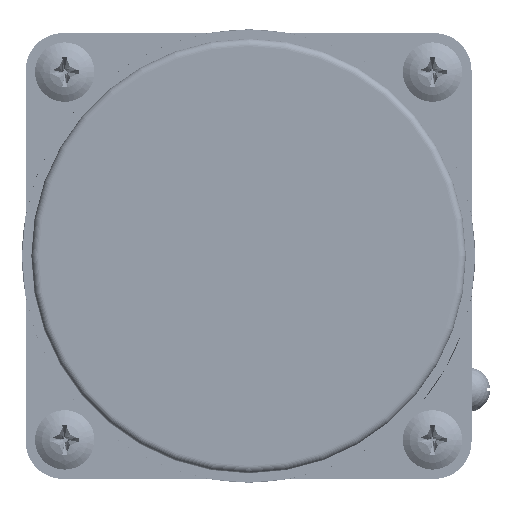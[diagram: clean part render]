
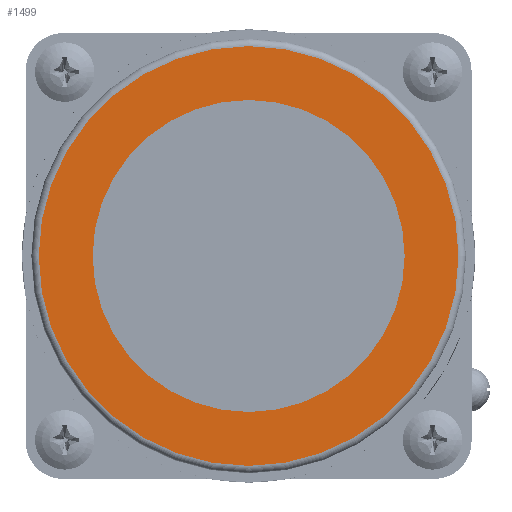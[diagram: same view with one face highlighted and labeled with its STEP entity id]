
A CAD part, left-side view. The second image highlights one B-rep face of the part: STEP entity #1499.
In plain terms, the highlighted planar face has unit normal (-1, 0, 0).
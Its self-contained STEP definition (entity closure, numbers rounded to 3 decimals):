
#1234=PLANE('',#5057);
#1499=ADVANCED_FACE('',(#1748,#1749),#1234,.T.);
#1748=FACE_BOUND('',#2101,.T.);
#1749=FACE_BOUND('',#2102,.T.);
#2101=EDGE_LOOP('',(#3237));
#2102=EDGE_LOOP('',(#3238));
#3237=ORIENTED_EDGE('',*,*,#4334,.T.);
#3238=ORIENTED_EDGE('',*,*,#4335,.T.);
#3743=VERTEX_POINT('',#76439);
#3744=VERTEX_POINT('',#76441);
#4334=EDGE_CURVE('',#3743,#3743,#4593,.T.);
#4335=EDGE_CURVE('',#3744,#3744,#4594,.T.);
#4593=CIRCLE('',#5055,28.25);
#4594=CIRCLE('',#5056,21.);
#5055=AXIS2_PLACEMENT_3D('',#76438,#5915,#5916);
#5056=AXIS2_PLACEMENT_3D('',#76440,#5917,#5918);
#5057=AXIS2_PLACEMENT_3D('',#76442,#5919,#5920);
#5915=DIRECTION('',(-1.,0.,0.));
#5916=DIRECTION('',(0.,-1.,0.));
#5917=DIRECTION('',(1.,0.,0.));
#5918=DIRECTION('',(0.,1.,0.));
#5919=DIRECTION('',(-1.,0.,0.));
#5920=DIRECTION('',(0.,-1.,0.));
#76438=CARTESIAN_POINT('',(-75.,0.,0.));
#76439=CARTESIAN_POINT('',(-75.,-28.25,0.));
#76440=CARTESIAN_POINT('',(-75.,0.,0.));
#76441=CARTESIAN_POINT('',(-75.,21.,0.));
#76442=CARTESIAN_POINT('',(-75.,0.,0.));
